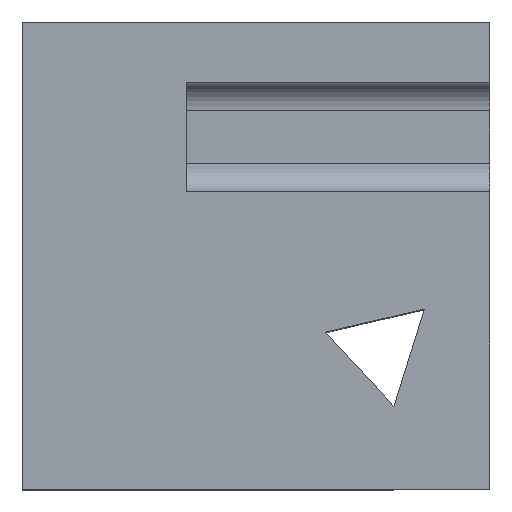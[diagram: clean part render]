
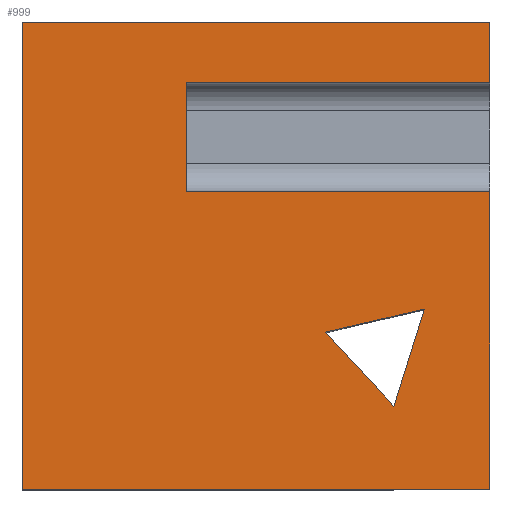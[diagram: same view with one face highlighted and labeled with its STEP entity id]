
A CAD part, top view. The second image highlights one B-rep face of the part: STEP entity #999.
In plain terms, the highlighted planar face has unit normal (0, 0, 1).
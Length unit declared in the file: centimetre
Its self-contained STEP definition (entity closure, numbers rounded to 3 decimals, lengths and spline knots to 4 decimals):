
#9 = CARTESIAN_POINT ( 'NONE',  ( 648.8274, 336.1549, 1000. ) ) ;
#29 = ORIENTED_EDGE ( 'NONE', *, *, #621, .T. ) ;
#36 = LINE ( 'NONE', #737, #1148 ) ;
#38 = ORIENTED_EDGE ( 'NONE', *, *, #424, .T. ) ;
#44 = DIRECTION ( 'NONE',  ( 0., 1., 0. ) ) ;
#63 = LINE ( 'NONE', #1112, #353 ) ;
#78 = VERTEX_POINT ( 'NONE', #289 ) ;
#103 = DIRECTION ( 'NONE',  ( -0.974, -0.228, 0. ) ) ;
#139 = EDGE_CURVE ( 'NONE', #724, #820, #1105, .T. ) ;
#148 = EDGE_CURVE ( 'NONE', #1263, #815, #63, .T. ) ;
#176 = DIRECTION ( 'NONE',  ( -1., 0., 0. ) ) ;
#196 = CARTESIAN_POINT ( 'NONE',  ( 0., 1000., 1000. ) ) ;
#208 = DIRECTION ( 'NONE',  ( 1., 0., 0. ) ) ;
#211 = VECTOR ( 'NONE', #103, 100. ) ;
#224 = DIRECTION ( 'NONE',  ( 1., 0., 0. ) ) ;
#228 = AXIS2_PLACEMENT_3D ( 'NONE', #1017, #806, #208 ) ;
#237 = LINE ( 'NONE', #458, #367 ) ;
#266 = VECTOR ( 'NONE', #581, 100. ) ;
#276 = EDGE_CURVE ( 'NONE', #648, #394, #825, .T. ) ;
#289 = CARTESIAN_POINT ( 'NONE',  ( 0., 0., 1000. ) ) ;
#326 = LINE ( 'NONE', #837, #211 ) ;
#353 = VECTOR ( 'NONE', #176, 100. ) ;
#367 = VECTOR ( 'NONE', #44, 100. ) ;
#389 = ORIENTED_EDGE ( 'NONE', *, *, #795, .T. ) ;
#394 = VERTEX_POINT ( 'NONE', #196 ) ;
#409 = VECTOR ( 'NONE', #1211, 100. ) ;
#419 = ORIENTED_EDGE ( 'NONE', *, *, #1012, .F. ) ;
#424 = EDGE_CURVE ( 'NONE', #78, #829, #526, .T. ) ;
#441 = ORIENTED_EDGE ( 'NONE', *, *, #1232, .T. ) ;
#455 = DIRECTION ( 'NONE',  ( 0., 1., 0. ) ) ;
#458 = CARTESIAN_POINT ( 'NONE',  ( 350.926, 0., 1000. ) ) ;
#460 = ORIENTED_EDGE ( 'NONE', *, *, #586, .F. ) ;
#480 = EDGE_CURVE ( 'NONE', #394, #78, #746, .T. ) ;
#484 = CARTESIAN_POINT ( 'NONE',  ( 795.0109, 177.7702, 1000. ) ) ;
#486 = CARTESIAN_POINT ( 'NONE',  ( 860.2624, 385.6017, 1000. ) ) ;
#493 = ORIENTED_EDGE ( 'NONE', *, *, #570, .F. ) ;
#526 = LINE ( 'NONE', #624, #636 ) ;
#538 = CARTESIAN_POINT ( 'NONE',  ( 0., 1000., 1000. ) ) ;
#570 = EDGE_CURVE ( 'NONE', #820, #1006, #326, .T. ) ;
#581 = DIRECTION ( 'NONE',  ( 0., 1., 0. ) ) ;
#586 = EDGE_CURVE ( 'NONE', #1172, #1174, #742, .T. ) ;
#616 = DIRECTION ( 'NONE',  ( -1., 0., 0. ) ) ;
#621 = EDGE_CURVE ( 'NONE', #829, #1174, #36, .T. ) ;
#624 = CARTESIAN_POINT ( 'NONE',  ( 0., 0., 1000. ) ) ;
#636 = VECTOR ( 'NONE', #1046, 100. ) ;
#648 = VERTEX_POINT ( 'NONE', #657 ) ;
#651 = ORIENTED_EDGE ( 'NONE', *, *, #148, .F. ) ;
#657 = CARTESIAN_POINT ( 'NONE',  ( 1000., 1000., 1000. ) ) ;
#660 = CARTESIAN_POINT ( 'NONE',  ( 795.0109, 177.7702, 1000. ) ) ;
#663 = CARTESIAN_POINT ( 'NONE',  ( 1000., 870.8021, 1000. ) ) ;
#669 = CARTESIAN_POINT ( 'NONE',  ( 350.926, 636.529, 1000. ) ) ;
#702 = VECTOR ( 'NONE', #616, 100. ) ;
#704 = FACE_BOUND ( 'NONE', #874, .T. ) ;
#721 = EDGE_LOOP ( 'NONE', ( #460, #389, #651, #441, #1331, #1171, #38, #29 ) ) ;
#724 = VERTEX_POINT ( 'NONE', #660 ) ;
#737 = CARTESIAN_POINT ( 'NONE',  ( 1000., 1000., 1000. ) ) ;
#742 = LINE ( 'NONE', #1290, #1212 ) ;
#746 = LINE ( 'NONE', #538, #1170 ) ;
#789 = CARTESIAN_POINT ( 'NONE',  ( 1000., 1000., 1000. ) ) ;
#795 = EDGE_CURVE ( 'NONE', #1172, #815, #237, .T. ) ;
#802 = CARTESIAN_POINT ( 'NONE',  ( 350.926, 870.8021, 1000. ) ) ;
#806 = DIRECTION ( 'NONE',  ( 0., 0., 1. ) ) ;
#815 = VERTEX_POINT ( 'NONE', #802 ) ;
#820 = VERTEX_POINT ( 'NONE', #486 ) ;
#825 = LINE ( 'NONE', #950, #702 ) ;
#829 = VERTEX_POINT ( 'NONE', #890 ) ;
#837 = CARTESIAN_POINT ( 'NONE',  ( 860.2624, 385.6017, 1000. ) ) ;
#849 = LINE ( 'NONE', #1051, #409 ) ;
#874 = EDGE_LOOP ( 'NONE', ( #966, #419, #493 ) ) ;
#880 = CARTESIAN_POINT ( 'NONE',  ( 1000., 636.529, 1000. ) ) ;
#890 = CARTESIAN_POINT ( 'NONE',  ( 1000., 0., 1000. ) ) ;
#950 = CARTESIAN_POINT ( 'NONE',  ( 0., 1000., 1000. ) ) ;
#966 = ORIENTED_EDGE ( 'NONE', *, *, #139, .F. ) ;
#999 = ADVANCED_FACE ( 'NONE', ( #704, #1024 ), #1116, .T. ) ;
#1006 = VERTEX_POINT ( 'NONE', #9 ) ;
#1012 = EDGE_CURVE ( 'NONE', #1006, #724, #849, .T. ) ;
#1017 = CARTESIAN_POINT ( 'NONE',  ( 0., 0., 1000. ) ) ;
#1024 = FACE_OUTER_BOUND ( 'NONE', #721, .T. ) ;
#1028 = DIRECTION ( 'NONE',  ( 0.3, 0.954, 0. ) ) ;
#1046 = DIRECTION ( 'NONE',  ( 1., 0., 0. ) ) ;
#1051 = CARTESIAN_POINT ( 'NONE',  ( 648.8274, 336.1549, 1000. ) ) ;
#1059 = VECTOR ( 'NONE', #1028, 100. ) ;
#1087 = LINE ( 'NONE', #789, #266 ) ;
#1105 = LINE ( 'NONE', #484, #1059 ) ;
#1112 = CARTESIAN_POINT ( 'NONE',  ( 350.926, 870.8021, 1000. ) ) ;
#1116 = PLANE ( 'NONE',  #228 ) ;
#1148 = VECTOR ( 'NONE', #455, 100. ) ;
#1170 = VECTOR ( 'NONE', #1262, 100. ) ;
#1171 = ORIENTED_EDGE ( 'NONE', *, *, #480, .T. ) ;
#1172 = VERTEX_POINT ( 'NONE', #669 ) ;
#1174 = VERTEX_POINT ( 'NONE', #880 ) ;
#1211 = DIRECTION ( 'NONE',  ( 0.678, -0.735, 0. ) ) ;
#1212 = VECTOR ( 'NONE', #224, 100. ) ;
#1232 = EDGE_CURVE ( 'NONE', #1263, #648, #1087, .T. ) ;
#1262 = DIRECTION ( 'NONE',  ( 0., -1., 0. ) ) ;
#1263 = VERTEX_POINT ( 'NONE', #663 ) ;
#1290 = CARTESIAN_POINT ( 'NONE',  ( 350.926, 636.529, 1000. ) ) ;
#1331 = ORIENTED_EDGE ( 'NONE', *, *, #276, .T. ) ;
